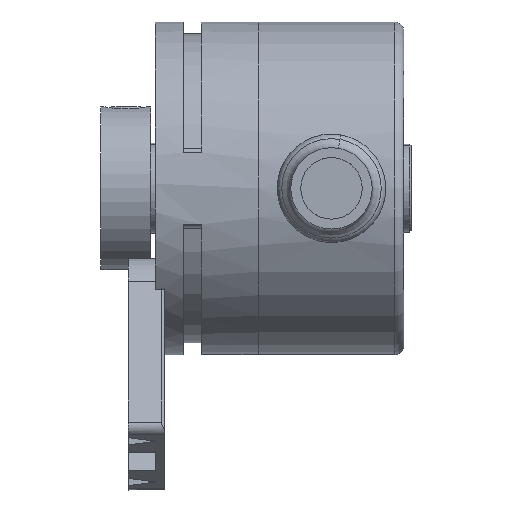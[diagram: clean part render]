
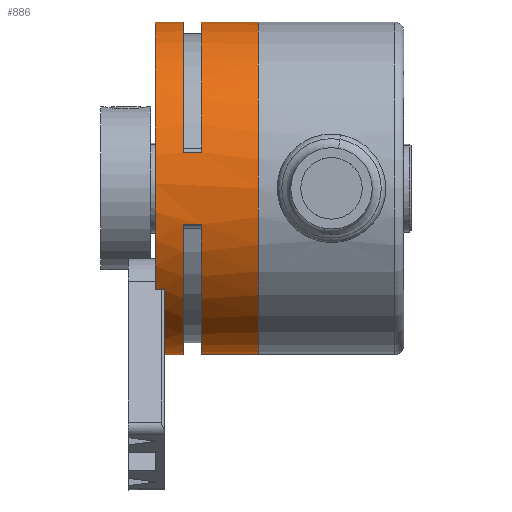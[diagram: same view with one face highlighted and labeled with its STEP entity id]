
A CAD part, front view. The second image highlights one B-rep face of the part: STEP entity #886.
In plain terms, the highlighted cylindrical face has radius 18.4 mm (diameter 36.8 mm), a partial arc.
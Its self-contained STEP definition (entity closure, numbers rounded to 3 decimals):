
#813 = ORIENTED_EDGE ( 'NONE', *, *, #814, .F. ) ;
#814 = EDGE_CURVE ( 'NONE', #815, #30875, #18646, .T. ) ;
#815 = VERTEX_POINT ( 'NONE', #18639 ) ;
#816 = ORIENTED_EDGE ( 'NONE', *, *, #817, .F. ) ;
#817 = EDGE_CURVE ( 'NONE', #818, #815, #18634, .T. ) ;
#818 = VERTEX_POINT ( 'NONE', #18624 ) ;
#866 = ORIENTED_EDGE ( 'NONE', *, *, #867, .F. ) ;
#867 = EDGE_CURVE ( 'NONE', #868, #939, #18854, .T. ) ;
#868 = VERTEX_POINT ( 'NONE', #18959 ) ;
#869 = ORIENTED_EDGE ( 'NONE', *, *, #870, .T. ) ;
#870 = EDGE_CURVE ( 'NONE', #868, #35812, #18955, .T. ) ;
#882 = EDGE_CURVE ( 'NONE', #35455, #36087, #18986, .T. ) ;
#886 = ADVANCED_FACE ( 'NONE', ( #18980 ), #19059, .T. ) ;
#887 = EDGE_LOOP ( 'NONE', ( #888, #889, #890, #891, #894, #897, #899, #813, #816, #928, #931, #934, #936, #937, #866, #869 ) ) ;
#888 = ORIENTED_EDGE ( 'NONE', *, *, #35691, .F. ) ;
#889 = ORIENTED_EDGE ( 'NONE', *, *, #882, .T. ) ;
#890 = ORIENTED_EDGE ( 'NONE', *, *, #35048, .T. ) ;
#891 = ORIENTED_EDGE ( 'NONE', *, *, #893, .T. ) ;
#892 = VERTEX_POINT ( 'NONE', #19061 ) ;
#893 = EDGE_CURVE ( 'NONE', #35462, #892, #19047, .T. ) ;
#894 = ORIENTED_EDGE ( 'NONE', *, *, #895, .T. ) ;
#895 = EDGE_CURVE ( 'NONE', #892, #896, #19040, .T. ) ;
#896 = VERTEX_POINT ( 'NONE', #19035 ) ;
#897 = ORIENTED_EDGE ( 'NONE', *, *, #898, .F. ) ;
#898 = EDGE_CURVE ( 'NONE', #33987, #896, #19033, .T. ) ;
#899 = ORIENTED_EDGE ( 'NONE', *, *, #33925, .T. ) ;
#928 = ORIENTED_EDGE ( 'NONE', *, *, #929, .F. ) ;
#929 = EDGE_CURVE ( 'NONE', #930, #818, #19205, .T. ) ;
#930 = VERTEX_POINT ( 'NONE', #19199 ) ;
#931 = ORIENTED_EDGE ( 'NONE', *, *, #932, .T. ) ;
#932 = EDGE_CURVE ( 'NONE', #930, #933, #19197, .T. ) ;
#933 = VERTEX_POINT ( 'NONE', #19193 ) ;
#934 = ORIENTED_EDGE ( 'NONE', *, *, #935, .F. ) ;
#935 = EDGE_CURVE ( 'NONE', #32396, #933, #19190, .T. ) ;
#936 = ORIENTED_EDGE ( 'NONE', *, *, #33375, .F. ) ;
#937 = ORIENTED_EDGE ( 'NONE', *, *, #938, .F. ) ;
#938 = EDGE_CURVE ( 'NONE', #939, #33380, #19293, .T. ) ;
#939 = VERTEX_POINT ( 'NONE', #19285 ) ;
#18624 = CARTESIAN_POINT ( 'NONE',  ( 82.16, -32.069, -11.237 ) ) ;
#18628 = DIRECTION ( 'NONE',  ( -1., 0., 0. ) ) ;
#18630 = VECTOR ( 'NONE', #18628, 1000. ) ;
#18632 = CARTESIAN_POINT ( 'NONE',  ( 82.16, -32.069, -11.237 ) ) ;
#18634 = LINE ( 'NONE', #18632, #18630 ) ;
#18639 = CARTESIAN_POINT ( 'NONE',  ( 81.16, -32.069, -11.237 ) ) ;
#18642 = DIRECTION ( 'NONE',  ( 0., 0., 1. ) ) ;
#18643 = DIRECTION ( 'NONE',  ( -1., 0., 0. ) ) ;
#18644 = CARTESIAN_POINT ( 'NONE',  ( 81.16, -17.498, 0. ) ) ;
#18645 = AXIS2_PLACEMENT_3D ( 'NONE', #18644, #18643, #18642 ) ;
#18646 = CIRCLE ( 'NONE', #18645, 18.4 ) ;
#18850 = DIRECTION ( 'NONE',  ( -1., 0., 0. ) ) ;
#18852 = VECTOR ( 'NONE', #18850, 1000. ) ;
#18853 = CARTESIAN_POINT ( 'NONE',  ( 86.26, -35.458, -4. ) ) ;
#18854 = LINE ( 'NONE', #18853, #18852 ) ;
#18947 = DIRECTION ( 'NONE',  ( 0., 0., -1. ) ) ;
#18949 = DIRECTION ( 'NONE',  ( 1., 0., 0. ) ) ;
#18951 = CARTESIAN_POINT ( 'NONE',  ( 86.26, -17.498, 0. ) ) ;
#18953 = AXIS2_PLACEMENT_3D ( 'NONE', #18951, #18949, #18947 ) ;
#18955 = CIRCLE ( 'NONE', #18953, 18.4 ) ;
#18959 = CARTESIAN_POINT ( 'NONE',  ( 86.26, -35.458, -4. ) ) ;
#18980 = FACE_OUTER_BOUND ( 'NONE', #887, .T. ) ;
#18981 = DIRECTION ( 'NONE',  ( 0., 0., 1. ) ) ;
#18983 = DIRECTION ( 'NONE',  ( -1., 0., 0. ) ) ;
#18984 = CARTESIAN_POINT ( 'NONE',  ( 92.56, -17.498, 0. ) ) ;
#18985 = AXIS2_PLACEMENT_3D ( 'NONE', #18984, #18983, #18981 ) ;
#18986 = CIRCLE ( 'NONE', #18985, 18.4 ) ;
#19029 = DIRECTION ( 'NONE',  ( 0., 0., -1. ) ) ;
#19030 = DIRECTION ( 'NONE',  ( 1., 0., 0. ) ) ;
#19031 = CARTESIAN_POINT ( 'NONE',  ( 84.26, -17.498, 0. ) ) ;
#19032 = AXIS2_PLACEMENT_3D ( 'NONE', #19031, #19030, #19029 ) ;
#19033 = CIRCLE ( 'NONE', #19032, 18.4 ) ;
#19035 = CARTESIAN_POINT ( 'NONE',  ( 84.26, -35.458, 4. ) ) ;
#19037 = DIRECTION ( 'NONE',  ( -1., 0., 0. ) ) ;
#19038 = VECTOR ( 'NONE', #19037, 1000. ) ;
#19039 = CARTESIAN_POINT ( 'NONE',  ( 86.26, -35.458, 4. ) ) ;
#19040 = LINE ( 'NONE', #19039, #19038 ) ;
#19042 = DIRECTION ( 'NONE',  ( 0., 0., -1. ) ) ;
#19043 = DIRECTION ( 'NONE',  ( 1., 0., 0. ) ) ;
#19045 = CARTESIAN_POINT ( 'NONE',  ( 86.26, -17.498, 0. ) ) ;
#19046 = AXIS2_PLACEMENT_3D ( 'NONE', #19045, #19043, #19042 ) ;
#19047 = CIRCLE ( 'NONE', #19046, 18.4 ) ;
#19055 = DIRECTION ( 'NONE',  ( 0., 0., 1. ) ) ;
#19057 = DIRECTION ( 'NONE',  ( -1., 0., 0. ) ) ;
#19058 = AXIS2_PLACEMENT_3D ( 'NONE', #19068, #19057, #19055 ) ;
#19059 = CYLINDRICAL_SURFACE ( 'NONE', #19058, 18.4 ) ;
#19061 = CARTESIAN_POINT ( 'NONE',  ( 86.26, -35.458, 4. ) ) ;
#19068 = CARTESIAN_POINT ( 'NONE',  ( 76.76, -17.498, 0. ) ) ;
#19188 = CARTESIAN_POINT ( 'NONE',  ( 81.16, -17.498, 0. ) ) ;
#19189 = AXIS2_PLACEMENT_3D ( 'NONE', #19188, #19299, #19298 ) ;
#19190 = CIRCLE ( 'NONE', #19189, 18.4 ) ;
#19193 = CARTESIAN_POINT ( 'NONE',  ( 81.16, -19.944, -18.237 ) ) ;
#19194 = DIRECTION ( 'NONE',  ( -1., 0., 0. ) ) ;
#19195 = VECTOR ( 'NONE', #19194, 1000. ) ;
#19196 = CARTESIAN_POINT ( 'NONE',  ( 82.16, -19.944, -18.237 ) ) ;
#19197 = LINE ( 'NONE', #19196, #19195 ) ;
#19199 = CARTESIAN_POINT ( 'NONE',  ( 82.16, -19.944, -18.237 ) ) ;
#19200 = DIRECTION ( 'NONE',  ( 0., 0., 1. ) ) ;
#19202 = DIRECTION ( 'NONE',  ( -1., 0., 0. ) ) ;
#19203 = CARTESIAN_POINT ( 'NONE',  ( 82.16, -17.498, 0. ) ) ;
#19204 = AXIS2_PLACEMENT_3D ( 'NONE', #19203, #19202, #19200 ) ;
#19205 = CIRCLE ( 'NONE', #19204, 18.4 ) ;
#19285 = CARTESIAN_POINT ( 'NONE',  ( 84.26, -35.458, -4. ) ) ;
#19288 = DIRECTION ( 'NONE',  ( 0., 0., -1. ) ) ;
#19289 = DIRECTION ( 'NONE',  ( 1., 0., 0. ) ) ;
#19291 = CARTESIAN_POINT ( 'NONE',  ( 84.26, -17.498, 0. ) ) ;
#19292 = AXIS2_PLACEMENT_3D ( 'NONE', #19291, #19289, #19288 ) ;
#19293 = CIRCLE ( 'NONE', #19292, 18.4 ) ;
#19298 = DIRECTION ( 'NONE',  ( 0., 0., 1. ) ) ;
#19299 = DIRECTION ( 'NONE',  ( -1., 0., 0. ) ) ;
#23561 = CARTESIAN_POINT ( 'NONE',  ( 81.16, -17.498, -18.4 ) ) ;
#23574 = CARTESIAN_POINT ( 'NONE',  ( 81.16, -17.498, 18.4 ) ) ;
#23583 = DIRECTION ( 'NONE',  ( -1., 0., 0. ) ) ;
#23584 = VECTOR ( 'NONE', #23583, 1000. ) ;
#23585 = CARTESIAN_POINT ( 'NONE',  ( 76.76, -17.498, 18.4 ) ) ;
#23586 = LINE ( 'NONE', #23585, #23584 ) ;
#23602 = CARTESIAN_POINT ( 'NONE',  ( 84.26, -17.498, -18.4 ) ) ;
#23603 = DIRECTION ( 'NONE',  ( -1., 0., 0. ) ) ;
#23604 = VECTOR ( 'NONE', #23603, 1000. ) ;
#23605 = CARTESIAN_POINT ( 'NONE',  ( 76.76, -17.498, -18.4 ) ) ;
#23606 = LINE ( 'NONE', #23605, #23604 ) ;
#23636 = CARTESIAN_POINT ( 'NONE',  ( 84.26, -17.498, 18.4 ) ) ;
#23654 = DIRECTION ( 'NONE',  ( -1., 0., 0. ) ) ;
#23655 = VECTOR ( 'NONE', #23654, 1000. ) ;
#23656 = CARTESIAN_POINT ( 'NONE',  ( 76.76, -17.498, 18.4 ) ) ;
#23657 = LINE ( 'NONE', #23656, #23655 ) ;
#23705 = CARTESIAN_POINT ( 'NONE',  ( 92.56, -17.498, -18.4 ) ) ;
#23736 = CARTESIAN_POINT ( 'NONE',  ( 86.26, -17.498, -18.4 ) ) ;
#23737 = DIRECTION ( 'NONE',  ( -1., 0., 0. ) ) ;
#23738 = VECTOR ( 'NONE', #23737, 1000. ) ;
#23739 = CARTESIAN_POINT ( 'NONE',  ( 76.76, -17.498, -18.4 ) ) ;
#23740 = LINE ( 'NONE', #23739, #23738 ) ;
#23757 = CARTESIAN_POINT ( 'NONE',  ( 86.26, -17.498, 18.4 ) ) ;
#23772 = CARTESIAN_POINT ( 'NONE',  ( 92.56, -17.498, 18.4 ) ) ;
#30875 = VERTEX_POINT ( 'NONE', #23574 ) ;
#32396 = VERTEX_POINT ( 'NONE', #23561 ) ;
#33375 = EDGE_CURVE ( 'NONE', #33380, #32396, #23606, .T. ) ;
#33380 = VERTEX_POINT ( 'NONE', #23602 ) ;
#33925 = EDGE_CURVE ( 'NONE', #33987, #30875, #23586, .T. ) ;
#33987 = VERTEX_POINT ( 'NONE', #23636 ) ;
#35048 = EDGE_CURVE ( 'NONE', #36087, #35462, #23657, .T. ) ;
#35455 = VERTEX_POINT ( 'NONE', #23705 ) ;
#35462 = VERTEX_POINT ( 'NONE', #23757 ) ;
#35691 = EDGE_CURVE ( 'NONE', #35455, #35812, #23740, .T. ) ;
#35812 = VERTEX_POINT ( 'NONE', #23736 ) ;
#36087 = VERTEX_POINT ( 'NONE', #23772 ) ;
